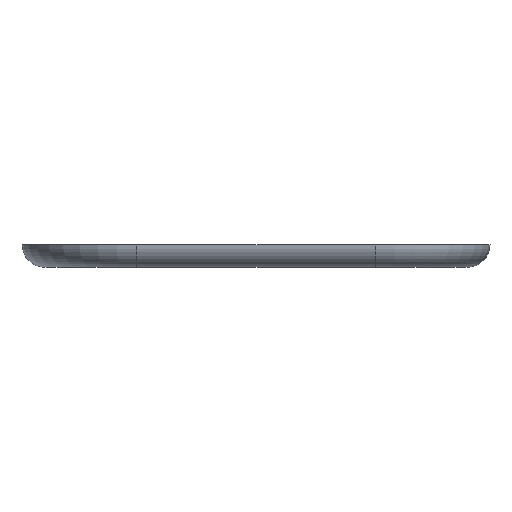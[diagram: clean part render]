
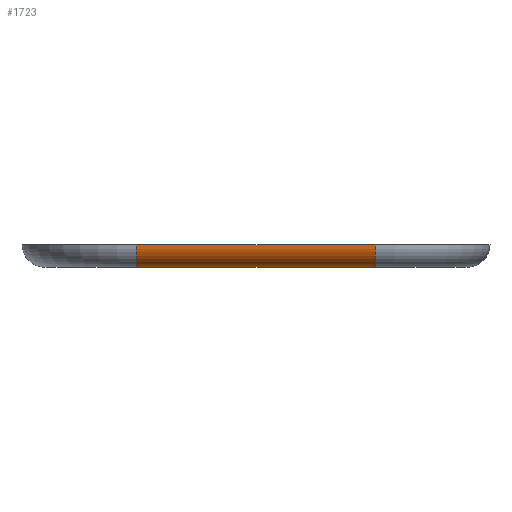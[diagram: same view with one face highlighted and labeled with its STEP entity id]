
A CAD part, front view. The second image highlights one B-rep face of the part: STEP entity #1723.
In plain terms, the highlighted cylindrical face has radius 4.2 mm (diameter 8.4 mm), a partial arc.
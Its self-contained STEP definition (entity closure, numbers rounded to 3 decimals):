
#73 = PLANE('',#74);
#74 = AXIS2_PLACEMENT_3D('',#75,#76,#77);
#75 = CARTESIAN_POINT('',(-43.2,-67.2,-11.95));
#76 = DIRECTION('',(0.,0.,1.));
#77 = DIRECTION('',(1.,0.,-0.));
#102 = TOROIDAL_SURFACE('',#103,17.,4.2);
#103 = AXIS2_PLACEMENT_3D('',#104,#105,#106);
#104 = CARTESIAN_POINT('',(-22.,-46.,-7.75));
#105 = DIRECTION('',(-0.,-0.,-1.));
#106 = DIRECTION('',(0.,-1.,0.));
#127 = PLANE('',#128);
#128 = AXIS2_PLACEMENT_3D('',#129,#130,#131);
#129 = CARTESIAN_POINT('',(-90.,-110.,-7.8));
#130 = DIRECTION('',(0.,0.,1.));
#131 = DIRECTION('',(1.,0.,-0.));
#231 = VERTEX_POINT('',#232);
#232 = CARTESIAN_POINT('',(-22.,-63.,-11.95));
#258 = EDGE_CURVE('',#259,#231,#261,.T.);
#259 = VERTEX_POINT('',#260);
#260 = CARTESIAN_POINT('',(22.,-63.,-11.95));
#261 = SURFACE_CURVE('',#262,(#266,#273),.PCURVE_S1.);
#262 = LINE('',#263,#264);
#263 = CARTESIAN_POINT('',(22.,-63.,-11.95));
#264 = VECTOR('',#265,1.);
#265 = DIRECTION('',(-1.,-0.,-0.));
#266 = PCURVE('',#73,#267);
#267 = DEFINITIONAL_REPRESENTATION('',(#268),#272);
#268 = LINE('',#269,#270);
#269 = CARTESIAN_POINT('',(65.2,4.2));
#270 = VECTOR('',#271,1.);
#271 = DIRECTION('',(-1.,0.));
#272 = ( GEOMETRIC_REPRESENTATION_CONTEXT(2) 
PARAMETRIC_REPRESENTATION_CONTEXT() REPRESENTATION_CONTEXT('2D SPACE',''
  ) );
#273 = PCURVE('',#274,#279);
#274 = CYLINDRICAL_SURFACE('',#275,4.2);
#275 = AXIS2_PLACEMENT_3D('',#276,#277,#278);
#276 = CARTESIAN_POINT('',(22.,-63.,-7.75));
#277 = DIRECTION('',(-1.,-0.,-0.));
#278 = DIRECTION('',(0.,-1.,0.));
#279 = DEFINITIONAL_REPRESENTATION('',(#280),#284);
#280 = LINE('',#281,#282);
#281 = CARTESIAN_POINT('',(4.712,0.));
#282 = VECTOR('',#283,1.);
#283 = DIRECTION('',(-0.,1.));
#284 = ( GEOMETRIC_REPRESENTATION_CONTEXT(2) 
PARAMETRIC_REPRESENTATION_CONTEXT() REPRESENTATION_CONTEXT('2D SPACE',''
  ) );
#307 = TOROIDAL_SURFACE('',#308,17.,4.2);
#308 = AXIS2_PLACEMENT_3D('',#309,#310,#311);
#309 = CARTESIAN_POINT('',(22.,-46.,-7.75));
#310 = DIRECTION('',(-0.,-0.,-1.));
#311 = DIRECTION('',(1.,0.,-0.));
#1021 = EDGE_CURVE('',#1022,#231,#1024,.T.);
#1022 = VERTEX_POINT('',#1023);
#1023 = CARTESIAN_POINT('',(-22.,-67.2,-7.8));
#1024 = SURFACE_CURVE('',#1025,(#1030,#1037),.PCURVE_S1.);
#1025 = CIRCLE('',#1026,4.2);
#1026 = AXIS2_PLACEMENT_3D('',#1027,#1028,#1029);
#1027 = CARTESIAN_POINT('',(-22.,-63.,-7.75));
#1028 = DIRECTION('',(1.,0.,0.));
#1029 = DIRECTION('',(0.,-1.,0.));
#1030 = PCURVE('',#102,#1031);
#1031 = DEFINITIONAL_REPRESENTATION('',(#1032),#1036);
#1032 = LINE('',#1033,#1034);
#1033 = CARTESIAN_POINT('',(0.,0.));
#1034 = VECTOR('',#1035,1.);
#1035 = DIRECTION('',(0.,1.));
#1036 = ( GEOMETRIC_REPRESENTATION_CONTEXT(2) 
PARAMETRIC_REPRESENTATION_CONTEXT() REPRESENTATION_CONTEXT('2D SPACE',''
  ) );
#1037 = PCURVE('',#274,#1038);
#1038 = DEFINITIONAL_REPRESENTATION('',(#1039),#1043);
#1039 = LINE('',#1040,#1041);
#1040 = CARTESIAN_POINT('',(6.283,44.));
#1041 = VECTOR('',#1042,1.);
#1042 = DIRECTION('',(-1.,0.));
#1043 = ( GEOMETRIC_REPRESENTATION_CONTEXT(2) 
PARAMETRIC_REPRESENTATION_CONTEXT() REPRESENTATION_CONTEXT('2D SPACE',''
  ) );
#1078 = EDGE_CURVE('',#1079,#1022,#1081,.T.);
#1079 = VERTEX_POINT('',#1080);
#1080 = CARTESIAN_POINT('',(22.,-67.2,-7.8));
#1081 = SURFACE_CURVE('',#1082,(#1086,#1093),.PCURVE_S1.);
#1082 = LINE('',#1083,#1084);
#1083 = CARTESIAN_POINT('',(22.,-67.2,-7.8));
#1084 = VECTOR('',#1085,1.);
#1085 = DIRECTION('',(-1.,-0.,-0.));
#1086 = PCURVE('',#127,#1087);
#1087 = DEFINITIONAL_REPRESENTATION('',(#1088),#1092);
#1088 = LINE('',#1089,#1090);
#1089 = CARTESIAN_POINT('',(112.,42.8));
#1090 = VECTOR('',#1091,1.);
#1091 = DIRECTION('',(-1.,0.));
#1092 = ( GEOMETRIC_REPRESENTATION_CONTEXT(2) 
PARAMETRIC_REPRESENTATION_CONTEXT() REPRESENTATION_CONTEXT('2D SPACE',''
  ) );
#1093 = PCURVE('',#274,#1094);
#1094 = DEFINITIONAL_REPRESENTATION('',(#1095),#1098);
#1095 = B_SPLINE_CURVE_WITH_KNOTS('',1,(#1096,#1097),.UNSPECIFIED.,.F.,
  .F.,(2,2),(0.,44.),.PIECEWISE_BEZIER_KNOTS.);
#1096 = CARTESIAN_POINT('',(6.271,0.));
#1097 = CARTESIAN_POINT('',(6.271,44.));
#1098 = ( GEOMETRIC_REPRESENTATION_CONTEXT(2) 
PARAMETRIC_REPRESENTATION_CONTEXT() REPRESENTATION_CONTEXT('2D SPACE',''
  ) );
#1723 = ADVANCED_FACE('',(#1724),#274,.T.);
#1724 = FACE_BOUND('',#1725,.T.);
#1725 = EDGE_LOOP('',(#1726,#1727,#1728,#1750));
#1726 = ORIENTED_EDGE('',*,*,#1021,.T.);
#1727 = ORIENTED_EDGE('',*,*,#258,.F.);
#1728 = ORIENTED_EDGE('',*,*,#1729,.F.);
#1729 = EDGE_CURVE('',#1079,#259,#1730,.T.);
#1730 = SURFACE_CURVE('',#1731,(#1736,#1743),.PCURVE_S1.);
#1731 = CIRCLE('',#1732,4.2);
#1732 = AXIS2_PLACEMENT_3D('',#1733,#1734,#1735);
#1733 = CARTESIAN_POINT('',(22.,-63.,-7.75));
#1734 = DIRECTION('',(1.,0.,0.));
#1735 = DIRECTION('',(0.,-1.,0.));
#1736 = PCURVE('',#274,#1737);
#1737 = DEFINITIONAL_REPRESENTATION('',(#1738),#1742);
#1738 = LINE('',#1739,#1740);
#1739 = CARTESIAN_POINT('',(6.283,0.));
#1740 = VECTOR('',#1741,1.);
#1741 = DIRECTION('',(-1.,0.));
#1742 = ( GEOMETRIC_REPRESENTATION_CONTEXT(2) 
PARAMETRIC_REPRESENTATION_CONTEXT() REPRESENTATION_CONTEXT('2D SPACE',''
  ) );
#1743 = PCURVE('',#307,#1744);
#1744 = DEFINITIONAL_REPRESENTATION('',(#1745),#1749);
#1745 = LINE('',#1746,#1747);
#1746 = CARTESIAN_POINT('',(1.571,0.));
#1747 = VECTOR('',#1748,1.);
#1748 = DIRECTION('',(0.,1.));
#1749 = ( GEOMETRIC_REPRESENTATION_CONTEXT(2) 
PARAMETRIC_REPRESENTATION_CONTEXT() REPRESENTATION_CONTEXT('2D SPACE',''
  ) );
#1750 = ORIENTED_EDGE('',*,*,#1078,.T.);
